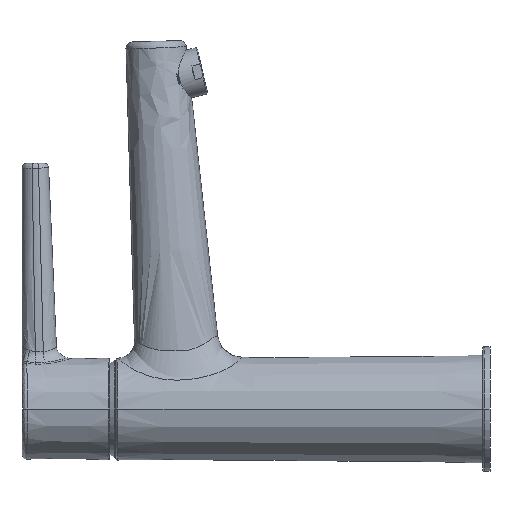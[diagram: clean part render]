
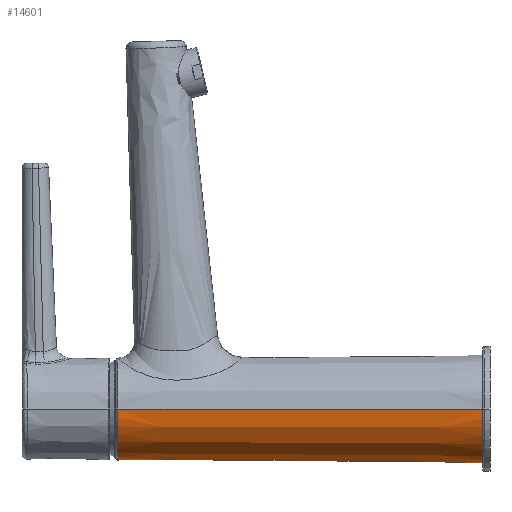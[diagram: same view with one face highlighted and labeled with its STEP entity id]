
A CAD part, left-side view. The second image highlights one B-rep face of the part: STEP entity #14601.
In plain terms, the highlighted conical face has half-angle 0.468 degrees and reference radius 21.878 mm.
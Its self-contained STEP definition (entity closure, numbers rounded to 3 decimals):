
#5515=CARTESIAN_POINT('',(0.,0.,0.));
#5516=DIRECTION('',(0.,1.,0.));
#5517=DIRECTION('',(1.,0.,0.));
#5518=AXIS2_PLACEMENT_3D('',#5515,#5516,#5517);
#5520=DIRECTION('',(0.008,-1.,0.));
#5521=VECTOR('',#5520,152.212);
#5522=CARTESIAN_POINT('',(21.256,152.207,
0.));
#5523=LINE('',#5522,#5521);
#5524=CARTESIAN_POINT('',(0.,152.207,0.));
#5525=DIRECTION('',(0.,-1.,0.));
#5526=DIRECTION('',(-1.,0.,0.));
#5527=AXIS2_PLACEMENT_3D('',#5524,#5525,#5526);
#5529=DIRECTION('',(-0.008,-1.,0.));
#5530=VECTOR('',#5529,152.212);
#5531=CARTESIAN_POINT('',(-21.256,152.207,
0.));
#5532=LINE('',#5531,#5530);
#13258=CARTESIAN_POINT('',(21.256,152.207,0.));
#13259=CARTESIAN_POINT('',(-21.256,152.207,0.));
#13260=VERTEX_POINT('',#13258);
#13261=VERTEX_POINT('',#13259);
#13365=CARTESIAN_POINT('',(-22.5,0.,0.));
#13366=CARTESIAN_POINT('',(22.5,0.,0.));
#13367=VERTEX_POINT('',#13365);
#13368=VERTEX_POINT('',#13366);
#14588=CARTESIAN_POINT('',(0.,76.103,0.));
#14589=DIRECTION('',(0.,-1.,0.));
#14590=DIRECTION('',(-1.,0.,0.));
#14591=AXIS2_PLACEMENT_3D('',#14588,#14589,#14590);
#14592=CONICAL_SURFACE('',#14591,21.878,0.468);
#14594=ORIENTED_EDGE('',*,*,#14593,.F.);
#14595=ORIENTED_EDGE('',*,*,#14577,.F.);
#14597=ORIENTED_EDGE('',*,*,#14596,.F.);
#14598=ORIENTED_EDGE('',*,*,#14573,.T.);
#14599=EDGE_LOOP('',(#14594,#14595,#14597,#14598));
#14600=FACE_OUTER_BOUND('',#14599,.F.);
#14601=ADVANCED_FACE('',(#14600),#14592,.T.);
#5519=CIRCLE('',#5518,22.5);
#5528=CIRCLE('',#5527,21.256);
#14573=EDGE_CURVE('',#13261,#13367,#5532,.T.);
#14577=EDGE_CURVE('',#13260,#13368,#5523,.T.);
#14593=EDGE_CURVE('',#13368,#13367,#5519,.T.);
#14596=EDGE_CURVE('',#13261,#13260,#5528,.T.);
